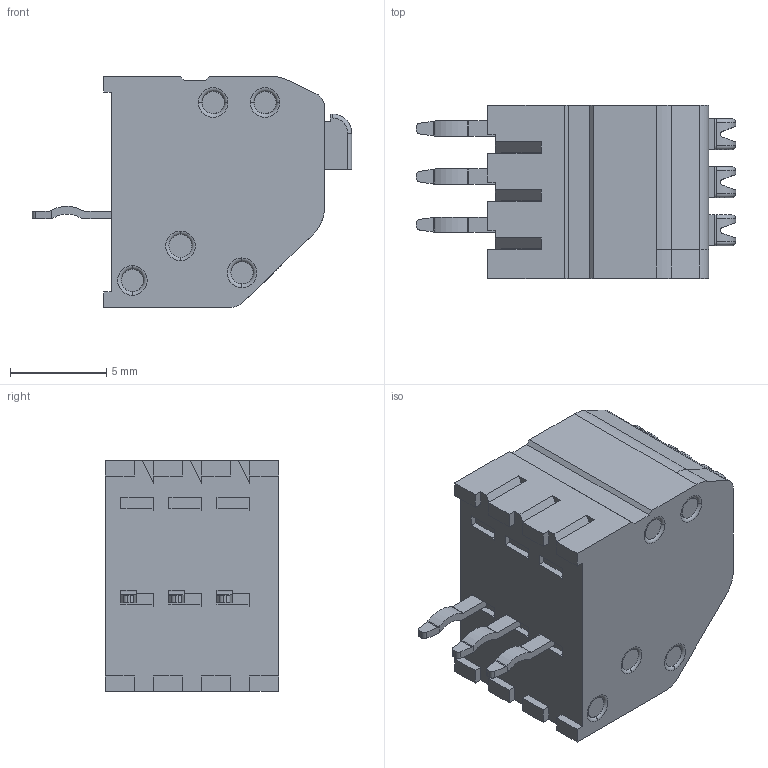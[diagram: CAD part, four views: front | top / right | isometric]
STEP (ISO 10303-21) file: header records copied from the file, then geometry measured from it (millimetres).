
FILE_DESCRIPTION((''),'2;1');
FILE_NAME('25-2','2024-06-05T',('vicent.pan'),(''),'CREO PARAMETRIC BY PTC INC, 2016260','CREO PARAMETRIC BY PTC INC, 2016260','');
FILE_SCHEMA(('CONFIG_CONTROL_DESIGN'));
Length unit declared in the file: millimetre
Products named in the file (1): 25-2
Bounding box: 16.6 x 9 x 12 mm (x, y, z)
Volume: 1033.8 mm3; surface area: 1072.4 mm2
Topology: 1 solids, 22 shells, 711 faces, 1700 edges, 1061 vertices
Faces by surface type: plane 384, cylinder 155, cone 113, torus 50, bspline 9
Entity records: 21120 total; most frequent: CARTESIAN_POINT 4425, DIRECTION 3513, ORIENTED_EDGE 3400, EDGE_CURVE 1700, AXIS2_PLACEMENT_3D 1196, VECTOR 1121, LINE 1121, VERTEX_POINT 1061
